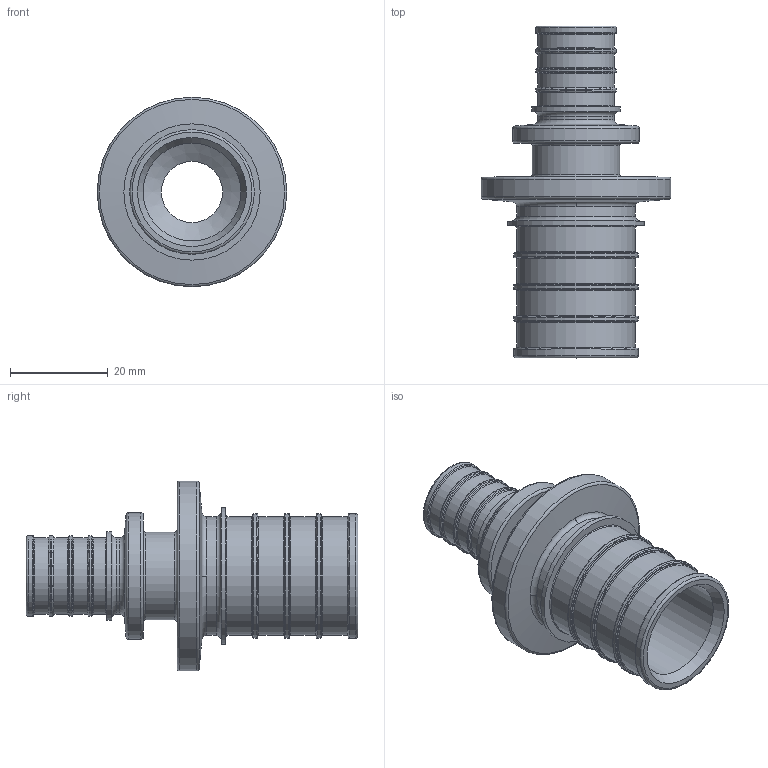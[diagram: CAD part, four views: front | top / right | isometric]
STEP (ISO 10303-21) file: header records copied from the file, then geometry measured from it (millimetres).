
FILE_DESCRIPTION(('STEP AP203'), '1');
FILE_NAME('ÂÐ.714651.014 - VTm.403.G.003220 Ôèò. íàäâ. ïð', '2024-01-23T11:06:23', ('User'), ('Vesta'), 'C3D Converter', 'C3D Toolkit', '');
FILE_SCHEMA(('CONFIG_CONTROL_DESIGN'));
Length unit declared in the file: millimetre
Products named in the file (1): ВР.714651.014
Bounding box: 38.8 x 67.9 x 38.8 mm (x, y, z)
Volume: 13818 mm3; surface area: 11258.8 mm2
Topology: 1 solids, 1 shells, 88 faces, 162 edges, 89 vertices
Faces by surface type: torus 43, cylinder 25, plane 15, cone 5
Full cylindrical faces by diameter (mm): 12.5 x1, 15.7 x5, 16.5 x4, 17.9 x1, 18.2 x1, 20 x1, 24.3 x5, 25.5 x4, 25.9 x1, 27.9 x1, 38.8 x1
Entity records: 1821 total; most frequent: DIRECTION 360, CARTESIAN_POINT 269, ORIENTED_EDGE 182, AXIS2_PLACEMENT_3D 180, EDGE_LOOP 174, FACE_OUTER_BOUND 140, EDGE_CURVE 91, CIRCLE 91
